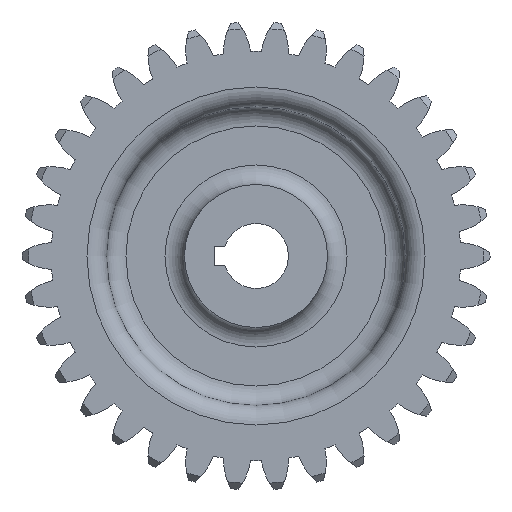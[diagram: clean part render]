
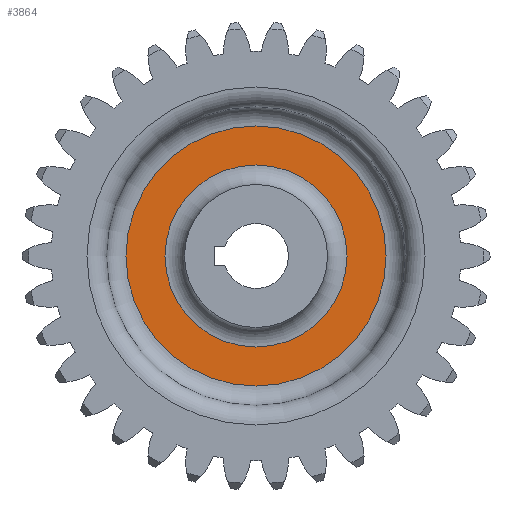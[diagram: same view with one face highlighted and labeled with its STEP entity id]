
A CAD part, left-side view. The second image highlights one B-rep face of the part: STEP entity #3864.
In plain terms, the highlighted planar face has unit normal (-1, 0, 0).
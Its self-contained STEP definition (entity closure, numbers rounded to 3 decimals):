
#234=CIRCLE('',#4234,14.);
#235=CIRCLE('',#4236,20.);
#741=PLANE('',#4235);
#755=FACE_BOUND('',#1009,.T.);
#774=FACE_OUTER_BOUND('',#1008,.T.);
#1008=EDGE_LOOP('',(#2609));
#1009=EDGE_LOOP('',(#2610));
#1517=VERTEX_POINT('',#6349);
#1518=VERTEX_POINT('',#6352);
#1952=EDGE_CURVE('',#1517,#1517,#234,.T.);
#1953=EDGE_CURVE('',#1518,#1518,#235,.T.);
#2609=ORIENTED_EDGE('',*,*,#1953,.F.);
#2610=ORIENTED_EDGE('',*,*,#1952,.F.);
#3864=ADVANCED_FACE('',(#774,#755),#741,.F.);
#4234=AXIS2_PLACEMENT_3D('',#6350,#4981,#4982);
#4235=AXIS2_PLACEMENT_3D('',#6351,#4983,#4984);
#4236=AXIS2_PLACEMENT_3D('',#6353,#4985,#4986);
#4981=DIRECTION('center_axis',(-1.,0.,0.));
#4982=DIRECTION('ref_axis',(0.,-1.,0.));
#4983=DIRECTION('center_axis',(1.,0.,0.));
#4984=DIRECTION('ref_axis',(0.,0.,-1.));
#4985=DIRECTION('center_axis',(1.,0.,0.));
#4986=DIRECTION('ref_axis',(0.,-1.,0.));
#6349=CARTESIAN_POINT('',(6.,14.,0.));
#6350=CARTESIAN_POINT('Origin',(6.,0.,0.));
#6351=CARTESIAN_POINT('Origin',(6.,11.,0.));
#6352=CARTESIAN_POINT('',(6.,20.,0.));
#6353=CARTESIAN_POINT('Origin',(6.,0.,0.));
